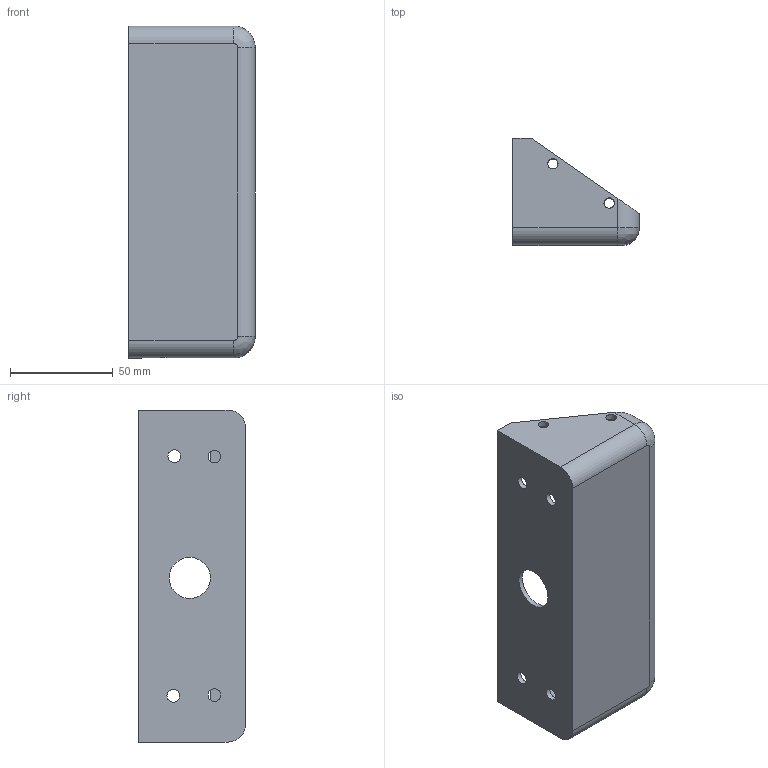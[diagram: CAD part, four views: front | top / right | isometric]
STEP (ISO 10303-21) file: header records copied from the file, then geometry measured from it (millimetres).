
FILE_DESCRIPTION(/* description */ (''),/* implementation_level */ '2;1');
FILE_NAME(/* name */ 'control_box_JARVIS_airpath.step',/* time_stamp */ '2023-06-05T13:28:06+02:00',/* author */ (''),/* organization */ (''),/* preprocessor_version */ 'ST-DEVELOPER v19.2',/* originating_system */ 'Autodesk Translation Framework v12.6.0.85',/* authorisation */ '');
FILE_SCHEMA (('AUTOMOTIVE_DESIGN { 1 0 10303 214 3 1 1 }'));
Length unit declared in the file: millimetre
Products named in the file (2): Magnet Airpath; Beste Box v6
Assembly tree (1 placements, depth 2):
  Magnet Airpath
    Beste Box v6
Bounding box: 61.49 x 52.04 x 161.5 mm (x, y, z)
Volume: 66369.2 mm3; surface area: 48516 mm2
Topology: 1 solids, 1 shells, 91 faces, 246 edges, 155 vertices
Faces by surface type: cylinder 41, plane 21, bspline 20, torus 9
Full cylindrical faces by diameter (mm): 5.05 x4, 6.2 x4, 11 x1, 20 x1
Entity records: 3930 total; most frequent: CARTESIAN_POINT 1630, ORIENTED_EDGE 492, DIRECTION 424, EDGE_CURVE 246, AXIS2_PLACEMENT_3D 163, VERTEX_POINT 155, EDGE_LOOP 109, LINE 98
